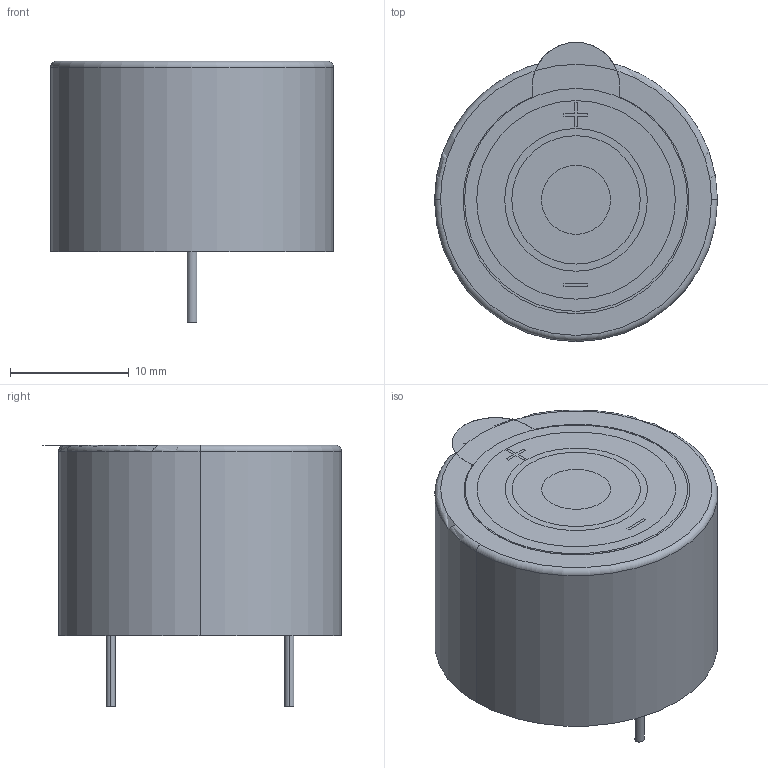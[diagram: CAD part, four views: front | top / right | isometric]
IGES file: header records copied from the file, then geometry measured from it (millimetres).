
Global section: file name: No Iges File Name specified; native system: AutoDesk Inventor R12.0; preprocessor: AutoDesk Inventor Iges Exporter R12.0; date: 20090219.095709; units: millimetre
Bounding box: 23.8 x 25.15 x 22.01 mm (x, y, z)
Volume: 7183.1 mm3; surface area: 5251.5 mm2
Topology: 7 solids, 7 shells, 109 faces, 231 edges, 152 vertices
Faces by surface type: plane 63, cylinder 21, revolution 20, torus 5
